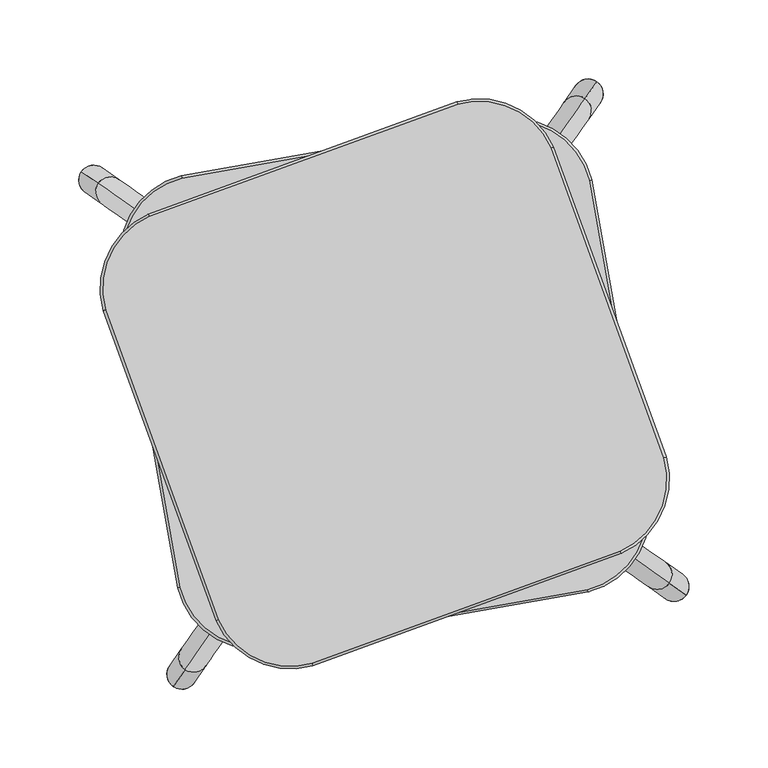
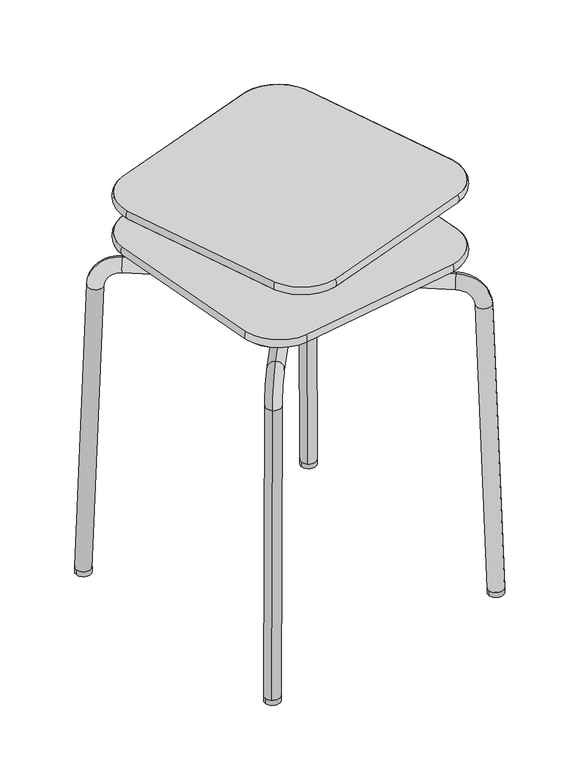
"""IFC4 building model written with IfcOpenShell, lengths in millimetres: furniture geometry, Grip NxT Stool 45 Stack : 45 Unupholstered."""

from ifc_helpers import new_model, si_unit, point, frame, frame_2d, origin, place, context, project, spatial, polyline, circle_curve, ellipse_curve, trimmed, segment, composite_curve, outline, extrude, source, transform, mapped, element, save
from ifc_brep_helpers import plane_surface, cylinder_surface, revolved_surface, advanced_brep


def furniture_5ac924e7(model_context):
    return source(origin(), model_context, "Body", "SolidModel", [
        advanced_brep(
        [(-105.6658172, -149.8194623, 595.4041136), (-46.1905142, -177.5407438, 595.4041136), (-46.1905142, -177.5407438, 585.4041138), (-105.6658172, -149.8194623, 585.4041138), (-177.2468062, 46.8476885, 595.4041136), (-177.2468062, 46.8476885, 585.4041138), (-149.5049771, 106.31341, 595.4041136), (-149.5049771, 106.31341, 585.4041138), (46.1905142, 177.5407438, 595.4041136), (46.1905142, 177.5407438, 585.4041138), (105.6658172, 149.8194623, 595.4041136), (105.6658172, 149.8194623, 585.4041138), (177.2468062, -46.8476885, 595.4041136), (177.2468062, -46.8476885, 585.4041138), (149.5049771, -106.31341, 595.4041136), (149.5049771, -106.31341, 585.4041138)],
        [
            (0, 1, circle_curve(frame((-59.9886761, -129.4823342, 595.4041136), z_axis=(0.0, 0.0, 1.0), x_axis=(0.2759632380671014, -0.961168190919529, 0.0)), 50.0)),
            (1, 2),
            (2, 3, circle_curve(frame((-59.9886761, -129.4823342, 585.4041138), z_axis=(0.0, 0.0, -1.0), x_axis=(0.2759632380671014, -0.961168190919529, 0.0)), 50.0)),
            (3, 0),
            (4, 0, circle_curve(frame((1264.6484164, 460.2943804, 595.4041136), z_axis=(0.0, 0.0, 1.0), x_axis=(-0.9135428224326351, -0.40674256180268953, 0.0)), 1500.0)),
            (3, 5, circle_curve(frame((1264.6484164, 460.2943804, 585.4041138), z_axis=(0.0, 0.0, -1.0), x_axis=(-0.9135428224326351, -0.40674256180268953, 0.0)), 1500.0)),
            (5, 4),
            (6, 4, circle_curve(frame((-129.1836321, 60.6292449, 595.4041136), z_axis=(0.0, 0.0, 1.0), x_axis=(-0.9612634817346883, -0.2756311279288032, 0.0)), 50.0)),
            (5, 7, circle_curve(frame((-129.1836321, 60.6292449, 585.4041138), z_axis=(0.0, 0.0, -1.0), x_axis=(-0.9612634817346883, -0.2756311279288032, 0.0)), 50.0)),
            (7, 6),
            (8, 6, circle_curve(frame((460.1353713, -1264.2115426, 595.4041136), z_axis=(0.0, 0.0, 1.0), x_axis=(-0.4064268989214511, 0.913683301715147, 0.0)), 1500.0)),
            (7, 9, circle_curve(frame((460.1353713, -1264.2115426, 585.4041138), z_axis=(0.0, 0.0, -1.0), x_axis=(-0.4064268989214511, 0.913683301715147, 0.0)), 1500.0)),
            (9, 8),
            (10, 8, circle_curve(frame((59.9886761, 129.4823342, 595.4041136), z_axis=(0.0, 0.0, 1.0), x_axis=(-0.2759632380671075, 0.9611681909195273, 0.0)), 50.0)),
            (9, 11, circle_curve(frame((59.9886761, 129.4823342, 585.4041138), z_axis=(0.0, 0.0, -1.0), x_axis=(-0.2759632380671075, 0.9611681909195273, 0.0)), 50.0)),
            (11, 10),
            (12, 10, circle_curve(frame((-1264.6484164, -460.2943804, 595.4041136), z_axis=(0.0, 0.0, 1.0), x_axis=(0.9135428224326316, 0.4067425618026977, 0.0)), 1500.0)),
            (11, 13, circle_curve(frame((-1264.6484164, -460.2943804, 585.4041138), z_axis=(0.0, 0.0, -1.0), x_axis=(0.9135428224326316, 0.4067425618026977, 0.0)), 1500.0)),
            (13, 12),
            (14, 12, circle_curve(frame((129.1836321, -60.6292449, 595.4041136), z_axis=(0.0, 0.0, 1.0), x_axis=(0.9612634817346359, 0.27563112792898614, 0.0)), 50.0)),
            (13, 15, circle_curve(frame((129.1836321, -60.6292449, 585.4041138), z_axis=(0.0, 0.0, -1.0), x_axis=(0.9612634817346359, 0.27563112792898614, 0.0)), 50.0)),
            (15, 14),
            (1, 14, circle_curve(frame((-460.1353713, 1264.2115426, 595.4041136), z_axis=(0.0, 0.0, 1.0), x_axis=(0.4064268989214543, -0.9136833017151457, 0.0)), 1500.0)),
            (15, 2, circle_curve(frame((-460.1353713, 1264.2115426, 585.4041138), z_axis=(0.0, 0.0, -1.0), x_axis=(0.4064268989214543, -0.9136833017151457, 0.0)), 1500.0)),
            (2, 1, circle_curve(frame((-48.255634, -170.3480196, 590.4041137), z_axis=(-0.961168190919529, -0.27596323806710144, 0.0), x_axis=(0.27596323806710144, -0.961168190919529, 0.0)), 9.0)),
            (0, 3, circle_curve(frame((-98.8294887, -146.7756797, 590.4041137), z_axis=(0.40674256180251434, -0.9135428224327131, 0.0), x_axis=(-0.9135428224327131, -0.40674256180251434, 0.0)), 9.0)),
            (4, 5, circle_curve(frame((-170.0533689, 48.910323, 590.4041137), z_axis=(0.27563112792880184, -0.9612634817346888, 0.0), x_axis=(-0.9612634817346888, -0.27563112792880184, 0.0)), 9.0)),
            (6, 7, circle_curve(frame((-146.4635566, 99.4760302, 590.4041137), z_axis=(-0.9136833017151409, -0.406426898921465, 0.0), x_axis=(-0.406426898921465, 0.9136833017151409, 0.0)), 9.0)),
            (8, 9, circle_curve(frame((48.255634, 170.3480196, 590.4041137), z_axis=(-0.9611681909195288, -0.2759632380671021, 0.0), x_axis=(-0.2759632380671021, 0.9611681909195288, 0.0)), 9.0)),
            (10, 11, circle_curve(frame((98.8294887, 146.7756797, 590.4041137), z_axis=(-0.40674256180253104, 0.9135428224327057, 0.0), x_axis=(0.9135428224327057, 0.40674256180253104, 0.0)), 9.0)),
            (12, 13, circle_curve(frame((170.0533689, -48.910323, 590.4041137), z_axis=(-0.27563112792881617, 0.9612634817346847, 0.0), x_axis=(0.9612634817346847, 0.27563112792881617, 0.0)), 9.0)),
            (14, 15, circle_curve(frame((146.4635566, -99.4760302, 590.4041137), z_axis=(0.9136833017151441, 0.4064268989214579, 0.0), x_axis=(0.4064268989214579, -0.9136833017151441, 0.0)), 9.0)),
        ],
        [
            revolved_surface(polyline([(-46.190514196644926, -177.54074374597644, 585.4041138), (-46.190514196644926, -177.54074374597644, 595.4041136)]), (-59.9886761, -129.4823342, 595.4041136), (0.0, 0.0, -1.0)),
            revolved_surface(polyline([(-105.66581724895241, -149.81946230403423, 585.4041138), (-105.66581724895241, -149.81946230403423, 595.4041136)]), (1264.6484164, 460.2943804, 595.4041136), (0.0, 0.0, -1.0)),
            revolved_surface(polyline([(-177.24680618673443, 46.847688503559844, 585.4041138), (-177.24680618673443, 46.847688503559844, 595.4041136)]), (-129.1836321, 60.6292449, 595.4041136), (0.0, 0.0, -1.0)),
            revolved_surface(polyline([(-149.50497708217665, 106.31340997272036, 585.4041138), (-149.50497708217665, 106.31340997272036, 595.4041136)]), (460.1353713, -1264.2115426, 595.4041136), (0.0, 0.0, -1.0)),
            revolved_surface(polyline([(46.19051419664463, 177.54074374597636, 585.4041138), (46.19051419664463, 177.54074374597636, 595.4041136)]), (59.9886761, 129.4823342, 595.4041136), (0.0, 0.0, -1.0)),
            revolved_surface(polyline([(105.6658172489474, 149.8194623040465, 585.4041138), (105.6658172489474, 149.8194623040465, 595.4041136)]), (-1264.6484164, -460.2943804, 595.4041136), (0.0, 0.0, -1.0)),
            revolved_surface(polyline([(177.24680618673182, -46.8476885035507, 585.4041138), (177.24680618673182, -46.8476885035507, 595.4041136)]), (129.1836321, -60.6292449, 595.4041136), (0.0, 0.0, -1.0)),
            revolved_surface(polyline([(149.50497708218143, -106.31340997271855, 585.4041138), (149.50497708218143, -106.31340997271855, 595.4041136)]), (-460.1353713, 1264.2115426, 595.4041136), (0.0, 0.0, -1.0)),
            revolved_surface(trimmed(ellipse_curve(frame((-48.255634, -170.3480196, 590.4041137), z_axis=(0.961168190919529, 0.27596323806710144, 0.0), x_axis=(0.27596323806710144, -0.961168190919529, 0.0)), 9.0, 9.0), [point((-46.1905142, -177.5407438, 595.4041136))], [point((-46.1905142, -177.5407438, 585.4041138))], True, "CARTESIAN"), (-59.9886761, -129.4823342, 595.4041136), (0.0, 0.0, -1.0)),
            revolved_surface(trimmed(ellipse_curve(frame((-98.8294887, -146.7756797, 590.4041137), z_axis=(0.4067425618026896, -0.9135428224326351, 0.0), x_axis=(-0.9135428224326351, -0.4067425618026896, 0.0)), 9.0, 9.0), [point((-105.6658172, -149.8194623, 595.4041136))], [point((-105.6658172, -149.8194623, 585.4041138))], True, "CARTESIAN"), (1264.6484164, 460.2943804, 595.4041136), (0.0, 0.0, -1.0)),
            revolved_surface(trimmed(ellipse_curve(frame((-170.0533689, 48.910323, 590.4041137), z_axis=(0.27563112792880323, -0.9612634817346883, 0.0), x_axis=(-0.9612634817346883, -0.27563112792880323, 0.0)), 9.0, 9.0), [point((-177.2468062, 46.8476885, 595.4041136))], [point((-177.2468062, 46.8476885, 585.4041138))], True, "CARTESIAN"), (-129.1836321, 60.6292449, 595.4041136), (0.0, 0.0, -1.0)),
            revolved_surface(trimmed(ellipse_curve(frame((-146.4635566, 99.4760302, 590.4041137), z_axis=(-0.913683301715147, -0.4064268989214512, 0.0), x_axis=(-0.4064268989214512, 0.913683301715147, 0.0)), 9.0, 9.0), [point((-149.5049771, 106.31341, 595.4041136))], [point((-149.5049771, 106.31341, 585.4041138))], True, "CARTESIAN"), (460.1353713, -1264.2115426, 595.4041136), (0.0, 0.0, -1.0)),
            revolved_surface(trimmed(ellipse_curve(frame((48.255634, 170.3480196, 590.4041137), z_axis=(-0.9611681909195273, -0.2759632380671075, 0.0), x_axis=(-0.2759632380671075, 0.9611681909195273, 0.0)), 9.0, 9.0), [point((46.1905142, 177.5407438, 595.4041136))], [point((46.1905142, 177.5407438, 585.4041138))], True, "CARTESIAN"), (59.9886761, 129.4823342, 595.4041136), (0.0, 0.0, -1.0)),
            revolved_surface(trimmed(ellipse_curve(frame((98.8294887, 146.7756797, 590.4041137), z_axis=(-0.4067425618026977, 0.9135428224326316, 0.0), x_axis=(0.9135428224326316, 0.4067425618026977, 0.0)), 9.0, 9.0), [point((105.6658172, 149.8194623, 595.4041136))], [point((105.6658172, 149.8194623, 585.4041138))], True, "CARTESIAN"), (-1264.6484164, -460.2943804, 595.4041136), (0.0, 0.0, -1.0)),
            revolved_surface(trimmed(ellipse_curve(frame((170.0533689, -48.910323, 590.4041137), z_axis=(-0.27563112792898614, 0.9612634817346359, 0.0), x_axis=(0.9612634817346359, 0.27563112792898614, 0.0)), 9.0, 9.0), [point((177.2468062, -46.8476885, 595.4041136))], [point((177.2468062, -46.8476885, 585.4041138))], True, "CARTESIAN"), (129.1836321, -60.6292449, 595.4041136), (0.0, 0.0, -1.0)),
            revolved_surface(trimmed(ellipse_curve(frame((146.4635566, -99.4760302, 590.4041137), z_axis=(0.9136833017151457, 0.4064268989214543, 0.0), x_axis=(0.4064268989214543, -0.9136833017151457, 0.0)), 9.0, 9.0), [point((149.5049771, -106.31341, 595.4041136))], [point((149.5049771, -106.31341, 585.4041138))], True, "CARTESIAN"), (-460.1353713, 1264.2115426, 595.4041136), (0.0, 0.0, -1.0)),
        ],
        [
            (0, [[1, 2, 3, 4]]),
            (1, [[5, -4, 6, 7]]),
            (2, [[8, -7, 9, 10]]),
            (3, [[11, -10, 12, 13]]),
            (4, [[14, -13, 15, 16]]),
            (5, [[17, -16, 18, 19]]),
            (6, [[20, -19, 21, 22]]),
            (7, [[23, -22, 24, -2]]),
            (8, [[-3, 25, -1, 26]]),
            (9, [[-6, -26, -5, 27]]),
            (10, [[-9, -27, -8, 28]]),
            (11, [[-12, -28, -11, 29]]),
            (12, [[-15, -29, -14, 30]]),
            (13, [[-18, -30, -17, 31]]),
            (14, [[-21, -31, -20, 32]]),
            (15, [[-24, -32, -23, -25]]),
        ],
    ),
        extrude(outline(composite_curve([segment(trimmed(circle_curve(frame_2d((59.9886761, 129.4823342)), 50.0), [point((46.1905142, 177.5407438))], [point((105.6658172, 149.8194623))], False, "CARTESIAN"), True, "CONTINUOUS"), segment(trimmed(circle_curve(frame_2d((-1264.6484164, -460.2943804)), 1500.0), [point((105.6658172, 149.8194623))], [point((177.2468062, -46.8476885))], False, "CARTESIAN"), True, "CONTINUOUS"), segment(trimmed(circle_curve(frame_2d((129.1836321, -60.6292449)), 50.0), [point((177.2468062, -46.8476885))], [point((149.5049771, -106.31341))], False, "CARTESIAN"), True, "CONTINUOUS"), segment(trimmed(circle_curve(frame_2d((-460.1353713, 1264.2115426)), 1500.0), [point((149.5049771, -106.31341))], [point((-46.1905142, -177.5407438))], False, "CARTESIAN"), True, "CONTINUOUS"), segment(trimmed(circle_curve(frame_2d((-59.9886761, -129.4823342)), 50.0), [point((-46.1905142, -177.5407438))], [point((-105.6658172, -149.8194623))], False, "CARTESIAN"), True, "CONTINUOUS"), segment(trimmed(circle_curve(frame_2d((1264.6484164, 460.2943804)), 1500.0), [point((-105.6658172, -149.8194623))], [point((-177.2468062, 46.8476885))], False, "CARTESIAN"), True, "CONTINUOUS"), segment(trimmed(circle_curve(frame_2d((-129.1836321, 60.6292449)), 50.0), [point((-177.2468062, 46.8476885))], [point((-149.5049771, 106.31341))], False, "CARTESIAN"), True, "CONTINUOUS"), segment(trimmed(circle_curve(frame_2d((460.1353713, -1264.2115426)), 1500.0), [point((-149.5049771, 106.31341))], [point((46.1905142, 177.5407438))], False, "CARTESIAN"), True, "CONTINUOUS")], self_intersect=False)), frame((0.0, 0.0, 585.3753358), z_axis=(0.0, 0.0, 1.0), x_axis=(1.0, 0.0, 0.0)), (0.0, 0.0, 1.0), 9.9999998),
        advanced_brep(
        [(191.4405493, -134.0481158, 76.7653221), (175.8861416, -123.1568022, 76.1022316), (180.7163661, -126.5389618, 451.66572), (165.1619584, -115.6476483, 451.0026295), (148.3795711, -103.8964942, 489.7871899), (148.3795711, -103.8964942, 470.7871899), (0.1522537, -0.1066092, 489.7871899), (0.1522537, -0.1066092, 470.7871899), (-149.5611874, 104.7238708, 489.7871899), (-149.5611874, 104.7238708, 470.7871899), (-181.8979824, 127.3663385, 451.66572), (-166.3435747, 116.4750249, 451.0026295), (-192.6208182, 134.8745489, 76.812426), (-177.0664105, 123.9832354, 76.1493355), (134.6135861, 191.9240746, 76.7653221), (123.7222725, 176.3696668, 76.1022316), (127.1044321, 181.1998914, 451.66572), (116.2131186, 165.6454836, 451.0026295), (104.4619645, 148.8630963, 489.7871899), (104.4619645, 148.8630963, 470.7871899), (-104.1584005, -149.0776621, 489.7871899), (-104.1584005, -149.0776621, 470.7871899), (-126.8008682, -181.4144572, 451.66572), (-115.9095546, -165.8600494, 451.0026295), (-134.3090786, -192.137293, 76.812426), (-123.4177651, -176.5828852, 76.1493355)],
        [
            (0, 1, circle_curve(frame((183.6633455, -128.602459, 76.4337769), z_axis=(0.028587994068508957, -0.020017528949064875, -0.9993908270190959), x_axis=(-0.8186530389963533, 0.5732270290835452, -0.034899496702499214)), 9.5)),
            (1, 0, circle_curve(frame((183.6633455, -128.602459, 76.4337769), z_axis=(0.028587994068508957, -0.020017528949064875, -0.9993908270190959), x_axis=(-0.8186530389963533, 0.5732270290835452, -0.034899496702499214)), 9.5)),
            (0, 2),
            (2, 3, circle_curve(frame((172.9391622, -121.093305, 451.3341748), z_axis=(0.028587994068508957, -0.020017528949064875, -0.9993908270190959), x_axis=(-0.8186530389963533, 0.5732270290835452, -0.034899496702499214)), 9.5)),
            (3, 1),
            (3, 2, circle_curve(frame((172.9391622, -121.093305, 451.3341748), z_axis=(0.028587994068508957, -0.020017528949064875, -0.9993908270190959), x_axis=(-0.8186530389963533, 0.5732270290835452, -0.034899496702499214)), 9.5)),
            (2, 4, circle_curve(frame((148.3795711, -103.8964942, 450.2871899), z_axis=(-0.5735764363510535, -0.8191520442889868, 0.0), x_axis=(0.8186530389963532, -0.573227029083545, 0.03489949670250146)), 39.5)),
            (4, 5, circle_curve(frame((148.3795711, -103.8964942, 480.2871899), z_axis=(0.8191520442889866, -0.5735764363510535, 0.0), x_axis=(0.0, 0.0, -1.0)), 9.5)),
            (5, 3, circle_curve(frame((148.3795711, -103.8964942, 450.2871899), z_axis=(0.5735764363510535, 0.8191520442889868, 0.0), x_axis=(0.8186530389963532, -0.573227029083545, 0.03489949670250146)), 20.5)),
            (5, 4, circle_curve(frame((148.3795711, -103.8964942, 480.2871899), z_axis=(0.8191520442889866, -0.5735764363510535, 0.0), x_axis=(0.0, 0.0, -1.0)), 9.5)),
            (4, 6),
            (6, 7, ellipse_curve(frame((0.1522537, -0.1066092, 480.2871899), z_axis=(0.9848077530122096, 0.173648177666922, 0.0), x_axis=(0.17364817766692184, -0.9848077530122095, 0.0)), 13.4350288, 9.5)),
            (7, 5),
            (8, 9, circle_curve(frame((-149.5611874, 104.7238708, 480.2871899), z_axis=(0.8191520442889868, -0.5735764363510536, 0.0), x_axis=(0.0, 0.0, -1.0)), 9.5)),
            (9, 7),
            (7, 6, ellipse_curve(frame((0.1522537, -0.1066092, 480.2871899), z_axis=(-0.17364817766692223, 0.9848077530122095, 0.0), x_axis=(0.9848077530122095, 0.17364817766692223, 0.0)), 13.4350288, 9.5)),
            (6, 8),
            (7, 6, ellipse_curve(frame((0.1522537, -0.1066092, 480.2871899), z_axis=(0.17364817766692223, -0.9848077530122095, 0.0), x_axis=(0.9848077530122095, 0.17364817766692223, 0.0)), 13.4350288, 9.5)),
            (9, 8, circle_curve(frame((-149.5611874, 104.7238708, 480.2871899), z_axis=(0.8191520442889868, -0.5735764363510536, 0.0), x_axis=(0.0, 0.0, -1.0)), 9.5)),
            (6, 7, ellipse_curve(frame((0.1522537, -0.1066092, 480.2871899), z_axis=(-0.9848077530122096, -0.173648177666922, 0.0), x_axis=(0.17364817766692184, -0.9848077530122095, 0.0)), 13.4350288, 9.5)),
            (8, 10, circle_curve(frame((-149.5611874, 104.7238708, 450.2871899), z_axis=(-0.5735764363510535, -0.8191520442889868, 0.0), x_axis=(0.0, 0.0, 1.0)), 39.5)),
            (10, 11, circle_curve(frame((-174.1207785, 121.9206817, 451.3341748), z_axis=(0.028587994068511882, -0.020017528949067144, 0.9993908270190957), x_axis=(0.8186530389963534, -0.5732270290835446, -0.03489949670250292)), 9.5)),
            (11, 9, circle_curve(frame((-149.5611874, 104.7238708, 450.2871899), z_axis=(0.5735764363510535, 0.8191520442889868, 0.0), x_axis=(0.0, 0.0, 1.0)), 20.5)),
            (11, 10, circle_curve(frame((-174.1207785, 121.9206817, 451.3341748), z_axis=(0.02858799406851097, -0.020017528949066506, 0.9993908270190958), x_axis=(0.8186530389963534, -0.5732270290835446, -0.03489949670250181)), 9.5)),
            (12, 13, circle_curve(frame((-184.8436144, 129.4288922, 76.4808807), z_axis=(-0.02858799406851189, 0.020017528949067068, -0.9993908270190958), x_axis=(0.8186530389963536, -0.5732270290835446, -0.03489949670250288)), 9.5)),
            (13, 12, circle_curve(frame((-184.8436144, 129.4288922, 76.4808807), z_axis=(-0.02858799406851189, 0.020017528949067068, -0.9993908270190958), x_axis=(0.8186530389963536, -0.5732270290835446, -0.03489949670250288)), 9.5)),
            (10, 12),
            (13, 11),
            (14, 15, circle_curve(frame((129.1679293, 184.1468707, 76.4337769), z_axis=(0.020017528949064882, 0.02858799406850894, -0.9993908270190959), x_axis=(-0.5732270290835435, -0.8186530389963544, -0.03489949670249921)), 9.5)),
            (15, 14, circle_curve(frame((129.1679293, 184.1468707, 76.4337769), z_axis=(0.020017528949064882, 0.02858799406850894, -0.9993908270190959), x_axis=(-0.5732270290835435, -0.8186530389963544, -0.03489949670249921)), 9.5)),
            (14, 16),
            (16, 17, circle_curve(frame((121.6587753, 173.4226875, 451.3341748), z_axis=(0.020017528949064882, 0.02858799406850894, -0.9993908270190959), x_axis=(-0.5732270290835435, -0.8186530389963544, -0.03489949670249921)), 9.5)),
            (17, 15),
            (17, 16, circle_curve(frame((121.6587753, 173.4226875, 451.3341748), z_axis=(0.020017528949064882, 0.02858799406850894, -0.9993908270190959), x_axis=(-0.5732270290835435, -0.8186530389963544, -0.03489949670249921)), 9.5)),
            (16, 18, circle_curve(frame((104.4619645, 148.8630963, 450.2871899), z_axis=(0.8191520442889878, -0.5735764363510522, 0.0), x_axis=(0.5732270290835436, 0.8186530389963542, 0.03489949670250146)), 39.5)),
            (18, 19, circle_curve(frame((104.4619645, 148.8630963, 480.2871899), z_axis=(0.5735764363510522, 0.8191520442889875, 0.0), x_axis=(0.0, 0.0, -1.0)), 9.5)),
            (19, 17, circle_curve(frame((104.4619645, 148.8630963, 450.2871899), z_axis=(-0.8191520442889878, 0.5735764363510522, 0.0), x_axis=(0.5732270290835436, 0.8186530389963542, 0.03489949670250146)), 20.5)),
            (19, 18, circle_curve(frame((104.4619645, 148.8630963, 480.2871899), z_axis=(0.5735764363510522, 0.8191520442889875, 0.0), x_axis=(0.0, 0.0, -1.0)), 9.5)),
            (18, 6),
            (7, 19),
            (20, 21, circle_curve(frame((-104.1584005, -149.0776621, 480.2871899), z_axis=(0.5735764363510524, 0.8191520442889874, 0.0), x_axis=(0.0, 0.0, -1.0)), 9.5)),
            (21, 7),
            (6, 20),
            (21, 20, circle_curve(frame((-104.1584005, -149.0776621, 480.2871899), z_axis=(0.5735764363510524, 0.8191520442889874, 0.0), x_axis=(0.0, 0.0, -1.0)), 9.5)),
            (20, 22, circle_curve(frame((-104.1584005, -149.0776621, 450.2871899), z_axis=(0.8191520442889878, -0.5735764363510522, 0.0), x_axis=(0.0, 0.0, 1.0)), 39.5)),
            (22, 23, circle_curve(frame((-121.3552114, -173.6372533, 451.3341748), z_axis=(0.020017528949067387, 0.028587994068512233, 0.9993908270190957), x_axis=(0.5732270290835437, 0.8186530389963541, -0.03489949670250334)), 9.5)),
            (23, 21, circle_curve(frame((-104.1584005, -149.0776621, 450.2871899), z_axis=(-0.8191520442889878, 0.5735764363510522, 0.0), x_axis=(0.0, 0.0, 1.0)), 20.5)),
            (23, 22, circle_curve(frame((-121.3552114, -173.6372533, 451.3341748), z_axis=(0.02001752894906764, 0.028587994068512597, 0.9993908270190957), x_axis=(0.5732270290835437, 0.8186530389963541, -0.034899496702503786)), 9.5)),
            (24, 25, circle_curve(frame((-128.8634219, -184.3600891, 76.4808807), z_axis=(-0.02001752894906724, -0.028587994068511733, -0.9993908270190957), x_axis=(0.5732270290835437, 0.8186530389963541, -0.03489949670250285)), 9.5)),
            (25, 24, circle_curve(frame((-128.8634219, -184.3600891, 76.4808807), z_axis=(-0.02001752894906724, -0.028587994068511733, -0.9993908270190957), x_axis=(0.5732270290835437, 0.8186530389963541, -0.03489949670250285)), 9.5)),
            (22, 24),
            (25, 23),
        ],
        [
            plane_surface(frame((183.6633455, -128.602459, 76.4337769), z_axis=(0.028587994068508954, -0.020017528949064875, -0.9993908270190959), x_axis=(-0.5735764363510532, -0.8191520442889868, 0.0))),
            cylinder_surface(frame((183.6633455, -128.602459, 76.4337769), z_axis=(0.028587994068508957, -0.020017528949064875, -0.9993908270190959), x_axis=(-0.8186530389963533, 0.5732270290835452, -0.034899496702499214)), 9.5),
            revolved_surface(trimmed(ellipse_curve(frame((172.9391622, -121.093305, 451.3341748), z_axis=(0.02858799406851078, -0.020017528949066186, -0.9993908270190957), x_axis=(-0.8186530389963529, 0.5732270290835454, -0.03489949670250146)), 9.5, 9.5), [point((180.7163661, -126.5389618, 451.66572))], [point((165.1619584, -115.6476483, 451.0026295))], True, "CARTESIAN"), (148.3795711, -103.8964942, 450.2871899), (-0.5735764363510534, -0.8191520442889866, 0.0)),
            revolved_surface(trimmed(ellipse_curve(frame((172.9391622, -121.093305, 451.3341748), z_axis=(0.02858799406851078, -0.020017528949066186, -0.9993908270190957), x_axis=(-0.8186530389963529, 0.5732270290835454, -0.03489949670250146)), 9.5, 9.5), [point((165.1619584, -115.6476483, 451.0026295))], [point((180.7163661, -126.5389618, 451.66572))], True, "CARTESIAN"), (148.3795711, -103.8964942, 450.2871899), (-0.5735764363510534, -0.8191520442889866, 0.0)),
            cylinder_surface(frame((148.3795711, -103.8964942, 480.2871899), z_axis=(0.8191520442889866, -0.5735764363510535, 0.0), x_axis=(0.0, 0.0, -1.0)), 9.5),
            revolved_surface(trimmed(ellipse_curve(frame((-149.5611874, 104.7238708, 480.2871899), z_axis=(0.8191520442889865, -0.5735764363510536, 0.0), x_axis=(0.0, 0.0, -1.0)), 9.5, 9.5), [point((-149.5611874, 104.7238708, 489.7871899))], [point((-149.5611874, 104.7238708, 470.7871899))], True, "CARTESIAN"), (-149.5611874, 104.7238708, 450.2871899), (-0.5735764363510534, -0.8191520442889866, 0.0)),
            revolved_surface(trimmed(ellipse_curve(frame((-149.5611874, 104.7238708, 480.2871899), z_axis=(0.8191520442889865, -0.5735764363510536, 0.0), x_axis=(0.0, 0.0, -1.0)), 9.5, 9.5), [point((-149.5611874, 104.7238708, 470.7871899))], [point((-149.5611874, 104.7238708, 489.7871899))], True, "CARTESIAN"), (-149.5611874, 104.7238708, 450.2871899), (-0.5735764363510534, -0.8191520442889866, 0.0)),
            plane_surface(frame((-184.8436144, 129.4288922, 76.4808807), z_axis=(-0.028587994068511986, 0.020017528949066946, -0.9993908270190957), x_axis=(-0.5735764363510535, -0.8191520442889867, 0.0))),
            cylinder_surface(frame((-174.1207785, 121.9206817, 451.3341748), z_axis=(0.02858799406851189, -0.020017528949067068, 0.9993908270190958), x_axis=(0.8186530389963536, -0.5732270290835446, -0.03489949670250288)), 9.5),
            plane_surface(frame((129.1679293, 184.1468707, 76.4337769), z_axis=(0.020017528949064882, 0.028587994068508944, -0.9993908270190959), x_axis=(0.8191520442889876, -0.5735764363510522, 0.0))),
            cylinder_surface(frame((129.1679293, 184.1468707, 76.4337769), z_axis=(0.020017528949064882, 0.02858799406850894, -0.9993908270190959), x_axis=(-0.5732270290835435, -0.8186530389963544, -0.03489949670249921)), 9.5),
            revolved_surface(trimmed(ellipse_curve(frame((121.6587753, 173.4226875, 451.3341748), z_axis=(0.02001752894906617, 0.028587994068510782, -0.9993908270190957), x_axis=(-0.5732270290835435, -0.8186530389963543, -0.034899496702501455)), 9.5, 9.5), [point((127.1044321, 181.1998914, 451.66572))], [point((116.2131186, 165.6454836, 451.0026295))], True, "CARTESIAN"), (104.4619645, 148.8630963, 450.2871899), (0.8191520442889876, -0.573576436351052, 0.0)),
            revolved_surface(trimmed(ellipse_curve(frame((121.6587753, 173.4226875, 451.3341748), z_axis=(0.02001752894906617, 0.028587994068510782, -0.9993908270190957), x_axis=(-0.5732270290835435, -0.8186530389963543, -0.034899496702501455)), 9.5, 9.5), [point((116.2131186, 165.6454836, 451.0026295))], [point((127.1044321, 181.1998914, 451.66572))], True, "CARTESIAN"), (104.4619645, 148.8630963, 450.2871899), (0.8191520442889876, -0.573576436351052, 0.0)),
            cylinder_surface(frame((104.4619645, 148.8630963, 480.2871899), z_axis=(0.5735764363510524, 0.8191520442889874, 0.0), x_axis=(0.0, 0.0, -1.0)), 9.5),
            revolved_surface(trimmed(ellipse_curve(frame((-104.1584005, -149.0776621, 480.2871899), z_axis=(0.5735764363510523, 0.8191520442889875, 0.0), x_axis=(0.0, 0.0, -1.0)), 9.5, 9.5), [point((-104.1584005, -149.0776621, 489.7871899))], [point((-104.1584005, -149.0776621, 470.7871899))], True, "CARTESIAN"), (-104.1584005, -149.0776621, 450.2871899), (0.8191520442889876, -0.573576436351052, 0.0)),
            revolved_surface(trimmed(ellipse_curve(frame((-104.1584005, -149.0776621, 480.2871899), z_axis=(0.5735764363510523, 0.8191520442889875, 0.0), x_axis=(0.0, 0.0, -1.0)), 9.5, 9.5), [point((-104.1584005, -149.0776621, 470.7871899))], [point((-104.1584005, -149.0776621, 489.7871899))], True, "CARTESIAN"), (-104.1584005, -149.0776621, 450.2871899), (0.8191520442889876, -0.573576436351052, 0.0)),
            plane_surface(frame((-128.8634219, -184.3600891, 76.4808807), z_axis=(-0.02001752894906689, -0.028587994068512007, -0.9993908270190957), x_axis=(0.8191520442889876, -0.5735764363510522, 0.0))),
            cylinder_surface(frame((-121.3552114, -173.6372533, 451.3341748), z_axis=(0.020017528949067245, 0.02858799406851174, 0.9993908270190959), x_axis=(0.5732270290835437, 0.8186530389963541, -0.03489949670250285)), 9.5),
        ],
        [
            (0, [[1, 2]]),
            (1, [[-1, 3, 4, 5]]),
            (1, [[-2, -5, 6, -3]]),
            (2, [[-4, 7, 8, 9]]),
            (3, [[-6, -9, 10, -7]]),
            (4, [[-8, 11, 12, 13]]),
            (4, [[14, 15, 16, 17]]),
            (4, [[-10, -13, 18, -11]]),
            (4, [[19, -17, 20, -15]]),
            (5, [[-14, 21, 22, 23]]),
            (6, [[-19, -23, 24, -21]]),
            (7, [[25, 26]]),
            (8, [[-22, 27, -26, 28]]),
            (8, [[-24, -28, -25, -27]]),
            (9, [[29, 30]]),
            (10, [[-29, 31, 32, 33]]),
            (10, [[-30, -33, 34, -31]]),
            (11, [[-32, 35, 36, 37]]),
            (12, [[-34, -37, 38, -35]]),
            (13, [[-36, 39, -18, 40]]),
            (13, [[41, 42, -12, 43]]),
            (13, [[-38, -40, -20, -39]]),
            (13, [[44, -43, -16, -42]]),
            (14, [[-41, 45, 46, 47]]),
            (15, [[-44, -47, 48, -45]]),
            (16, [[49, 50]]),
            (17, [[-46, 51, -50, 52]]),
            (17, [[-48, -52, -49, -51]]),
        ],
    ),
        extrude(outline(composite_curve([segment(trimmed(circle_curve(frame_2d((-50.9487488, -72.9539738)), 9.0), [point((-59.8120186, -74.5168074))], [point((-42.0854791, -71.3911402))], False, "CARTESIAN"), True, "CONTINUOUS"), segment(trimmed(circle_curve(frame_2d((-50.9487488, -72.9539738)), 9.0), [point((-42.0854791, -71.3911402))], [point((-59.8120186, -74.5168074))], False, "CARTESIAN"), True, "CONTINUOUS")], self_intersect=False)), frame((0.0, 0.0, 458.5318909), z_axis=(0.0, 0.0, 1.0), x_axis=(1.0, 0.0, 0.0)), (0.0, 0.0, 1.0), 56.7956238),
        extrude(outline(composite_curve([segment(trimmed(circle_curve(frame_2d((-72.8650811, 51.0037852)), 9.0), [point((-81.7283509, 49.4409516))], [point((-64.0018113, 52.5666188))], False, "CARTESIAN"), True, "CONTINUOUS"), segment(trimmed(circle_curve(frame_2d((-72.8650811, 51.0037852)), 9.0), [point((-64.0018113, 52.5666188))], [point((-81.7283509, 49.4409516))], False, "CARTESIAN"), True, "CONTINUOUS")], self_intersect=False)), frame((0.0, 0.0, 458.5318909), z_axis=(0.0, 0.0, 1.0), x_axis=(1.0, 0.0, 0.0)), (0.0, 0.0, 1.0), 56.7956238),
        extrude(outline(composite_curve([segment(trimmed(circle_curve(frame_2d((51.1831974, 72.6378859)), 9.0), [point((60.0464672, 74.2007195))], [point((42.3199276, 71.0750523))], False, "CARTESIAN"), True, "CONTINUOUS"), segment(trimmed(circle_curve(frame_2d((51.1831974, 72.6378859)), 9.0), [point((42.3199276, 71.0750523))], [point((60.0464672, 74.2007195))], False, "CARTESIAN"), True, "CONTINUOUS")], self_intersect=False)), frame((0.0, 0.0, 458.5318909), z_axis=(0.0, 0.0, 1.0), x_axis=(1.0, 0.0, 0.0)), (0.0, 0.0, 1.0), 56.7956238),
        extrude(outline(composite_curve([segment(trimmed(circle_curve(frame_2d((72.8278919, -51.1288125)), 9.0), [point((81.6911617, -49.5659789))], [point((63.9646221, -52.6916461))], False, "CARTESIAN"), True, "CONTINUOUS"), segment(trimmed(circle_curve(frame_2d((72.8278919, -51.1288125)), 9.0), [point((63.9646221, -52.6916461))], [point((81.6911617, -49.5659789))], False, "CARTESIAN"), True, "CONTINUOUS")], self_intersect=False)), frame((0.0, 0.0, 458.5318909), z_axis=(0.0, 0.0, 1.0), x_axis=(1.0, 0.0, 0.0)), (0.0, 0.0, 1.0), 56.7956238),
        extrude(outline(composite_curve([segment(trimmed(circle_curve(frame_2d((-128.8522241, -184.352977)), 9.5), [point((-138.2078978, -186.0026347))], [point((-119.4965505, -182.7033193))], False, "CARTESIAN"), True, "CONTINUOUS"), segment(trimmed(circle_curve(frame_2d((-128.8522241, -184.352977)), 9.5), [point((-119.4965505, -182.7033193))], [point((-138.2078978, -186.0026347))], False, "CARTESIAN"), True, "CONTINUOUS")], self_intersect=False)), frame((0.0, 0.0, 70.0), z_axis=(0.0, 0.0, 1.0), x_axis=(1.0, 0.0, 0.0)), (0.0, 0.0, 1.0), 7.0),
        extrude(outline(composite_curve([segment(trimmed(circle_curve(frame_2d((-184.765808, 129.382232)), 9.5), [point((-194.1214816, 127.7325743))], [point((-175.4101343, 131.0318897))], False, "CARTESIAN"), True, "CONTINUOUS"), segment(trimmed(circle_curve(frame_2d((-184.765808, 129.382232)), 9.5), [point((-175.4101343, 131.0318897))], [point((-194.1214816, 127.7325743))], False, "CARTESIAN"), True, "CONTINUOUS")], self_intersect=False)), frame((0.0, 0.0, 70.0), z_axis=(0.0, 0.0, 1.0), x_axis=(1.0, 0.0, 0.0)), (0.0, 0.0, 1.0), 7.0),
        extrude(outline(composite_curve([segment(trimmed(circle_curve(frame_2d((129.162709, 184.1985347)), 9.5325021), [point((119.775027, 182.543233))], [point((138.5503911, 185.8538363))], False, "CARTESIAN"), True, "CONTINUOUS"), segment(trimmed(circle_curve(frame_2d((129.162709, 184.1985347)), 9.5325021), [point((138.5503911, 185.8538363))], [point((119.775027, 182.543233))], False, "CARTESIAN"), True, "CONTINUOUS")], self_intersect=False)), frame((0.0, 0.0, 70.0), z_axis=(0.0, 0.0, 1.0), x_axis=(1.0, 0.0, 0.0)), (0.0, 0.0, 1.0), 7.0),
        extrude(outline(composite_curve([segment(trimmed(circle_curve(frame_2d((183.6720706, -128.6192857)), 9.5), [point((174.3163969, -130.2689434))], [point((193.0277442, -126.969628))], False, "CARTESIAN"), True, "CONTINUOUS"), segment(trimmed(circle_curve(frame_2d((183.6720706, -128.6192857)), 9.5), [point((193.0277442, -126.969628))], [point((174.3163969, -130.2689434))], False, "CARTESIAN"), True, "CONTINUOUS")], self_intersect=False)), frame((0.0, 0.0, 70.0), z_axis=(0.0, 0.0, 1.0), x_axis=(1.0, 0.0, 0.0)), (0.0, 0.0, 1.0), 7.0),
        advanced_brep(
        [(52.1940164, 66.015965, 525.3895874), (49.7814286, 79.6984304, 525.3895874), (50.9877225, 72.8571977, 525.3895874), (50.9877225, 72.8571977, 526.5699158)],
        [
            (0, 1, circle_curve(frame((50.9877225, 72.8571977, 525.3895874), z_axis=(0.0, 0.0, -1.0), x_axis=(-0.17364817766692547, 0.9848077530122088, 0.0)), 6.9467697)),
            (1, 2),
            (2, 0),
            (1, 0, circle_curve(frame((50.9877225, 72.8571977, 525.3895874), z_axis=(0.0, 0.0, -1.0), x_axis=(-0.17364817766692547, 0.9848077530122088, 0.0)), 6.9467697)),
            (3, 1, circle_curve(frame((50.9482955, 73.0807993, 506.8735995), z_axis=(-0.9848077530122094, -0.17364817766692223, 0.0), x_axis=(-0.17364817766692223, 0.9848077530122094, 0.0)), 19.6976249)),
            (0, 3, circle_curve(frame((51.0271495, 72.6335961, 506.8735995), z_axis=(-0.9848077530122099, -0.17364817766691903, 0.0), x_axis=(0.17364817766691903, -0.9848077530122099, 0.0)), 19.6976249)),
        ],
        [
            plane_surface(frame((50.9877225, 72.8571977, 525.3895874), z_axis=(0.0, 0.0, -1.0), x_axis=(-0.1736481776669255, 0.9848077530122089, 0.0))),
            revolved_surface(trimmed(ellipse_curve(frame((50.9482955, 73.0807993, 506.8735995), z_axis=(0.9848077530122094, 0.17364817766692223, 0.0), x_axis=(-0.17364817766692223, 0.9848077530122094, 0.0)), 19.6976249, 19.6976249), [point((49.7814286, 79.6984304, 525.3895874))], [point((50.9877225, 72.8571977, 526.5699158))], True, "CARTESIAN"), (50.9877225, 72.8571977, 526.2266692), (0.0, 0.0, 1.0)),
        ],
        [
            (0, [[1, 2, 3]]),
            (0, [[4, -3, -2]]),
            (1, [[5, -1, 6]]),
            (1, [[-6, -4, -5]]),
        ],
    ),
        advanced_brep(
        [(72.8314158, -51.0245429, 525.3895874), (74.0377097, -57.8657756, 525.3895874), (71.6251219, -44.1833102, 525.3895874), (72.8314158, -51.0245429, 526.5699158)],
        [
            (0, 1),
            (1, 2, circle_curve(frame((72.8314158, -51.0245429, 525.3895874), z_axis=(0.0, 0.0, -1.0), x_axis=(0.17364817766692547, -0.9848077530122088, 0.0)), 6.9467697)),
            (2, 0),
            (2, 1, circle_curve(frame((72.8314158, -51.0245429, 525.3895874), z_axis=(0.0, 0.0, -1.0), x_axis=(0.17364817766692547, -0.9848077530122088, 0.0)), 6.9467697)),
            (1, 3, circle_curve(frame((72.8708428, -51.2481445, 506.8735995), z_axis=(-0.9848077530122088, -0.17364817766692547, 0.0), x_axis=(0.17364817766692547, -0.9848077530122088, 0.0)), 19.6976249)),
            (3, 2, circle_curve(frame((72.7919888, -50.8009413, 506.8735995), z_axis=(-0.9848077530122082, -0.17364817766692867, 0.0), x_axis=(-0.17364817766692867, 0.9848077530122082, 0.0)), 19.6976249)),
        ],
        [
            plane_surface(frame((72.8314158, -51.0245429, 525.3895874), z_axis=(0.0, 0.0, -1.0), x_axis=(0.1736481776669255, -0.9848077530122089, 0.0))),
            revolved_surface(trimmed(ellipse_curve(frame((72.8708428, -51.2481445, 506.8735995), z_axis=(0.9848077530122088, 0.17364817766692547, 0.0), x_axis=(0.17364817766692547, -0.9848077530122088, 0.0)), 19.6976249, 19.6976249), [point((72.8314158, -51.0245429, 526.5699158))], [point((74.0377097, -57.8657756, 525.3895874))], True, "CARTESIAN"), (72.8314158, -51.0245429, 526.2266692), (0.0, 0.0, -1.0)),
        ],
        [
            (0, [[1, 2, 3]]),
            (0, [[-3, 4, -1]]),
            (1, [[-2, 5, 6]]),
            (1, [[-4, -6, -5]]),
        ],
    ),
        advanced_brep(
        [(-72.8314158, 51.0245429, 525.3895874), (-74.0377097, 57.8657756, 525.3895874), (-71.6251219, 44.1833102, 525.3895874), (-72.8314158, 51.0245429, 526.5699158)],
        [
            (0, 1),
            (1, 2, circle_curve(frame((-72.8314158, 51.0245429, 525.3895874), z_axis=(0.0, 0.0, -1.0), x_axis=(-0.17364817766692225, 0.9848077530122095, 0.0)), 6.9467697)),
            (2, 0),
            (2, 1, circle_curve(frame((-72.8314158, 51.0245429, 525.3895874), z_axis=(0.0, 0.0, -1.0), x_axis=(-0.17364817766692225, 0.9848077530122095, 0.0)), 6.9467697)),
            (1, 3, circle_curve(frame((-72.8708428, 51.2481445, 506.8735995), z_axis=(0.9848077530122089, 0.1736481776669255, 0.0), x_axis=(-0.1736481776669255, 0.9848077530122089, 0.0)), 19.6976249)),
            (3, 2, circle_curve(frame((-72.7919888, 50.8009413, 506.8735995), z_axis=(0.9848077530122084, 0.1736481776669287, 0.0), x_axis=(0.1736481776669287, -0.9848077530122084, 0.0)), 19.6976249)),
        ],
        [
            plane_surface(frame((-72.8314158, 51.0245429, 525.3895874), z_axis=(0.0, 0.0, -1.0), x_axis=(-0.17364817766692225, 0.9848077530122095, 0.0))),
            revolved_surface(trimmed(ellipse_curve(frame((-72.8708428, 51.2481445, 506.8735995), z_axis=(-0.9848077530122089, -0.1736481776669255, 0.0), x_axis=(-0.1736481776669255, 0.9848077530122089, 0.0)), 19.6976249, 19.6976249), [point((-72.8314158, 51.0245429, 526.5699158))], [point((-74.0377097, 57.8657756, 525.3895874))], True, "CARTESIAN"), (-72.8314158, 51.0245429, 526.2266692), (0.0, 0.0, -1.0)),
        ],
        [
            (0, [[1, 2, 3]]),
            (0, [[-3, 4, -1]]),
            (1, [[-2, 5, 6]]),
            (1, [[-4, -6, -5]]),
        ],
    ),
        advanced_brep(
        [(-52.1940164, -66.015965, 525.3895874), (-49.7814286, -79.6984304, 525.3895874), (-50.9877225, -72.8571977, 525.3895874), (-50.9877225, -72.8571977, 526.5699158)],
        [
            (0, 1, circle_curve(frame((-50.9877225, -72.8571977, 525.3895874), z_axis=(0.0, 0.0, -1.0), x_axis=(0.17364817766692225, -0.9848077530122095, 0.0)), 6.9467697)),
            (1, 2),
            (2, 0),
            (1, 0, circle_curve(frame((-50.9877225, -72.8571977, 525.3895874), z_axis=(0.0, 0.0, -1.0), x_axis=(0.17364817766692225, -0.9848077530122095, 0.0)), 6.9467697)),
            (3, 1, circle_curve(frame((-50.9482955, -73.0807993, 506.8735995), z_axis=(0.9848077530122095, 0.17364817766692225, 0.0), x_axis=(0.17364817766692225, -0.9848077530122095, 0.0)), 19.6976249)),
            (0, 3, circle_curve(frame((-51.0271495, -72.6335961, 506.8735995), z_axis=(0.98480775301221, 0.17364817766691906, 0.0), x_axis=(-0.17364817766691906, 0.98480775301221, 0.0)), 19.6976249)),
        ],
        [
            plane_surface(frame((-50.9877225, -72.8571977, 525.3895874), z_axis=(0.0, 0.0, -1.0), x_axis=(0.17364817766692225, -0.9848077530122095, 0.0))),
            revolved_surface(trimmed(ellipse_curve(frame((-50.9482955, -73.0807993, 506.8735995), z_axis=(-0.9848077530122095, -0.17364817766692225, 0.0), x_axis=(0.17364817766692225, -0.9848077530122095, 0.0)), 19.6976249, 19.6976249), [point((-49.7814286, -79.6984304, 525.3895874))], [point((-50.9877225, -72.8571977, 526.5699158))], True, "CARTESIAN"), (-50.9877225, -72.8571977, 526.2266692), (0.0, 0.0, 1.0)),
        ],
        [
            (0, [[1, 2, 3]]),
            (0, [[4, -3, -2]]),
            (1, [[5, -1, 6]]),
            (1, [[-6, -4, -5]]),
        ],
    ),
        advanced_brep(
        [(-130.0763927, -129.1946914, 525.4041136), (-76.3184031, -166.8226023, 525.4041136), (-76.3184031, -166.8226023, 515.4041138), (-130.0763927, -129.1946914, 515.4041138), (-166.4190132, 76.9145517, 525.4041136), (-166.4190132, 76.9145517, 515.4041138), (-128.7725306, 130.6595372, 525.4041136), (-128.7725306, 130.6595372, 515.4041138), (76.3184031, 166.8226023, 525.4041136), (76.3184031, 166.8226023, 515.4041138), (130.0763927, 129.1946914, 525.4041136), (130.0763927, 129.1946914, 515.4041138), (166.4190132, -76.9145517, 525.4041136), (166.4190132, -76.9145517, 515.4041138), (128.7725306, -130.6595372, 525.4041136), (128.7725306, -130.6595372, 515.4041138)],
        [
            (0, 1, circle_curve(frame((-81.5616847, -117.0982823, 525.4041136), z_axis=(0.0, 0.0, 1.0), x_axis=(0.1048656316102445, -0.9944863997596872, 0.0)), 50.0)),
            (1, 2),
            (2, 3, circle_curve(frame((-81.5616847, -117.0982823, 515.4041138), z_axis=(0.0, 0.0, -1.0), x_axis=(0.1048656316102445, -0.9944863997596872, 0.0)), 50.0)),
            (3, 0),
            (4, 0, circle_curve(frame((1325.3648457, 233.6975816, 525.4041136), z_axis=(0.0, 0.0, 1.0), x_axis=(-0.9702941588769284, -0.24192818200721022, 0.0)), 1500.0)),
            (3, 5, circle_curve(frame((1325.3648457, 233.6975816, 515.4041138), z_axis=(0.0, 0.0, -1.0), x_axis=(-0.9702941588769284, -0.24192818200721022, 0.0)), 1500.0)),
            (5, 4),
            (6, 4, circle_curve(frame((-116.6928846, 82.1406527, 525.4041136), z_axis=(0.0, 0.0, 1.0), x_axis=(-0.9945225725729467, -0.10452201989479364, 0.0)), 50.0)),
            (5, 7, circle_curve(frame((-116.6928846, 82.1406527, 515.4041138), z_axis=(0.0, 0.0, -1.0), x_axis=(-0.9945225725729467, -0.10452201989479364, 0.0)), 50.0)),
            (7, 6),
            (8, 6, circle_curve(frame((233.6168506, -1324.9069973, 525.4041136), z_axis=(0.0, 0.0, 1.0), x_axis=(-0.2415929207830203, 0.9703776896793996, 0.0)), 1500.0)),
            (7, 9, circle_curve(frame((233.6168506, -1324.9069973, 515.4041138), z_axis=(0.0, 0.0, -1.0), x_axis=(-0.2415929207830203, 0.9703776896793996, 0.0)), 1500.0)),
            (9, 8),
            (10, 8, circle_curve(frame((81.5616847, 117.0982823, 525.4041136), z_axis=(0.0, 0.0, 1.0), x_axis=(-0.1048656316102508, 0.9944863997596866, 0.0)), 50.0)),
            (9, 11, circle_curve(frame((81.5616847, 117.0982823, 515.4041138), z_axis=(0.0, 0.0, -1.0), x_axis=(-0.1048656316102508, 0.9944863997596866, 0.0)), 50.0)),
            (11, 10),
            (12, 10, circle_curve(frame((-1325.3648457, -233.6975816, 525.4041136), z_axis=(0.0, 0.0, 1.0), x_axis=(0.9702941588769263, 0.24192818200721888, 0.0)), 1500.0)),
            (11, 13, circle_curve(frame((-1325.3648457, -233.6975816, 515.4041138), z_axis=(0.0, 0.0, -1.0), x_axis=(0.9702941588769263, 0.24192818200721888, 0.0)), 1500.0)),
            (13, 12),
            (14, 12, circle_curve(frame((116.6928846, -82.1406527, 525.4041136), z_axis=(0.0, 0.0, 1.0), x_axis=(0.9945225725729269, 0.10452201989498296, 0.0)), 50.0)),
            (13, 15, circle_curve(frame((116.6928846, -82.1406527, 515.4041138), z_axis=(0.0, 0.0, -1.0), x_axis=(0.9945225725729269, 0.10452201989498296, 0.0)), 50.0)),
            (15, 14),
            (1, 14, circle_curve(frame((-233.6168506, 1324.9069973, 525.4041136), z_axis=(0.0, 0.0, 1.0), x_axis=(0.24159292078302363, -0.9703776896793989, 0.0)), 1500.0)),
            (15, 2, circle_curve(frame((-233.6168506, 1324.9069973, 515.4041138), z_axis=(0.0, 0.0, -1.0), x_axis=(0.24159292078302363, -0.9703776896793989, 0.0)), 1500.0)),
            (2, 1, circle_curve(frame((-77.1031457, -159.3805475, 520.4041137), z_axis=(-0.9944863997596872, -0.10486563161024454, 0.0), x_axis=(0.10486563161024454, -0.9944863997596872, 0.0)), 9.0)),
            (0, 3, circle_curve(frame((-122.815376, -127.3842667, 520.4041137), z_axis=(0.24192818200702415, -0.9702941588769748, 0.0), x_axis=(-0.9702941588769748, -0.24192818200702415, 0.0)), 9.0)),
            (4, 5, circle_curve(frame((-158.9766877, 77.6967229, 520.4041137), z_axis=(0.10452201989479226, -0.994522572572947, 0.0), x_axis=(-0.994522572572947, -0.10452201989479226, 0.0)), 9.0)),
            (6, 7, circle_curve(frame((-126.9646147, 123.3978955, 520.4041137), z_axis=(-0.9703776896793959, -0.24159292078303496, 0.0), x_axis=(-0.24159292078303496, 0.9703776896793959, 0.0)), 9.0)),
            (8, 9, circle_curve(frame((77.1031457, 159.3805475, 520.4041137), z_axis=(-0.9944863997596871, -0.10486563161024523, 0.0), x_axis=(-0.10486563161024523, 0.9944863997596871, 0.0)), 9.0)),
            (10, 11, circle_curve(frame((122.815376, 127.3842667, 520.4041137), z_axis=(-0.24192818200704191, 0.9702941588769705, 0.0), x_axis=(0.9702941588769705, 0.24192818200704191, 0.0)), 9.0)),
            (12, 13, circle_curve(frame((158.9766877, -77.6967229, 520.4041137), z_axis=(-0.10452201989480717, 0.9945225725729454, 0.0), x_axis=(0.9945225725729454, 0.10452201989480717, 0.0)), 9.0)),
            (14, 15, circle_curve(frame((126.9646147, -123.3978955, 520.4041137), z_axis=(0.9703776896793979, 0.2415929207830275, 0.0), x_axis=(0.2415929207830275, -0.9703776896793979, 0.0)), 9.0)),
        ],
        [
            revolved_surface(polyline([(-76.31840311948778, -166.82260228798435, 515.4041138), (-76.31840311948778, -166.82260228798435, 525.4041136)]), (-81.5616847, -117.0982823, 525.4041136), (0.0, 0.0, -1.0)),
            revolved_surface(polyline([(-130.0763926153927, -129.19469141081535, 515.4041138), (-130.0763926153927, -129.19469141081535, 525.4041136)]), (1325.3648457, 233.6975816, 525.4041136), (0.0, 0.0, -1.0)),
            revolved_surface(polyline([(-166.41901322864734, 76.91455170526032, 515.4041138), (-166.41901322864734, 76.91455170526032, 525.4041136)]), (-116.6928846, 82.1406527, 525.4041136), (0.0, 0.0, -1.0)),
            revolved_surface(polyline([(-128.77253057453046, 130.65953721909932, 515.4041138), (-128.77253057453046, 130.65953721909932, 525.4041136)]), (233.6168506, -1324.9069973, 525.4041136), (0.0, 0.0, -1.0)),
            revolved_surface(polyline([(76.31840311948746, 166.82260228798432, 515.4041138), (76.31840311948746, 166.82260228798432, 525.4041136)]), (81.5616847, 117.0982823, 525.4041136), (0.0, 0.0, -1.0)),
            revolved_surface(polyline([(130.07639261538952, 129.1946914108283, 515.4041138), (130.07639261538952, 129.1946914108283, 525.4041136)]), (-1325.3648457, -233.6975816, 525.4041136), (0.0, 0.0, -1.0)),
            revolved_surface(polyline([(166.41901322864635, -76.91455170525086, 515.4041138), (166.41901322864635, -76.91455170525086, 525.4041136)]), (116.6928846, -82.1406527, 525.4041136), (0.0, 0.0, -1.0)),
            revolved_surface(polyline([(128.77253057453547, -130.65953721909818, 515.4041138), (128.77253057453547, -130.65953721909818, 525.4041136)]), (-233.6168506, 1324.9069973, 525.4041136), (0.0, 0.0, -1.0)),
            revolved_surface(trimmed(ellipse_curve(frame((-77.1031457, -159.3805475, 520.4041137), z_axis=(0.9944863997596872, 0.10486563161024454, 0.0), x_axis=(0.10486563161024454, -0.9944863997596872, 0.0)), 9.0, 9.0), [point((-76.3184031, -166.8226023, 525.4041136))], [point((-76.3184031, -166.8226023, 515.4041138))], True, "CARTESIAN"), (-81.5616847, -117.0982823, 525.4041136), (0.0, 0.0, -1.0)),
            revolved_surface(trimmed(ellipse_curve(frame((-122.815376, -127.3842667, 520.4041137), z_axis=(0.24192818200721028, -0.9702941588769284, 0.0), x_axis=(-0.9702941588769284, -0.24192818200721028, 0.0)), 9.0, 9.0), [point((-130.0763927, -129.1946914, 525.4041136))], [point((-130.0763927, -129.1946914, 515.4041138))], True, "CARTESIAN"), (1325.3648457, 233.6975816, 525.4041136), (0.0, 0.0, -1.0)),
            revolved_surface(trimmed(ellipse_curve(frame((-158.9766877, 77.6967229, 520.4041137), z_axis=(0.10452201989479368, -0.9945225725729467, 0.0), x_axis=(-0.9945225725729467, -0.10452201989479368, 0.0)), 9.0, 9.0), [point((-166.4190132, 76.9145517, 525.4041136))], [point((-166.4190132, 76.9145517, 515.4041138))], True, "CARTESIAN"), (-116.6928846, 82.1406527, 525.4041136), (0.0, 0.0, -1.0)),
            revolved_surface(trimmed(ellipse_curve(frame((-126.9646147, 123.3978955, 520.4041137), z_axis=(-0.9703776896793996, -0.24159292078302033, 0.0), x_axis=(-0.24159292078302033, 0.9703776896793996, 0.0)), 9.0, 9.0), [point((-128.7725306, 130.6595372, 525.4041136))], [point((-128.7725306, 130.6595372, 515.4041138))], True, "CARTESIAN"), (233.6168506, -1324.9069973, 525.4041136), (0.0, 0.0, -1.0)),
            revolved_surface(trimmed(ellipse_curve(frame((77.1031457, 159.3805475, 520.4041137), z_axis=(-0.9944863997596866, -0.10486563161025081, 0.0), x_axis=(-0.10486563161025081, 0.9944863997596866, 0.0)), 9.0, 9.0), [point((76.3184031, 166.8226023, 525.4041136))], [point((76.3184031, 166.8226023, 515.4041138))], True, "CARTESIAN"), (81.5616847, 117.0982823, 525.4041136), (0.0, 0.0, -1.0)),
            revolved_surface(trimmed(ellipse_curve(frame((122.815376, 127.3842667, 520.4041137), z_axis=(-0.2419281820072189, 0.9702941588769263, 0.0), x_axis=(0.9702941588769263, 0.2419281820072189, 0.0)), 9.0, 9.0), [point((130.0763927, 129.1946914, 525.4041136))], [point((130.0763927, 129.1946914, 515.4041138))], True, "CARTESIAN"), (-1325.3648457, -233.6975816, 525.4041136), (0.0, 0.0, -1.0)),
            revolved_surface(trimmed(ellipse_curve(frame((158.9766877, -77.6967229, 520.4041137), z_axis=(-0.10452201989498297, 0.9945225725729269, 0.0), x_axis=(0.9945225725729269, 0.10452201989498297, 0.0)), 9.0, 9.0), [point((166.4190132, -76.9145517, 525.4041136))], [point((166.4190132, -76.9145517, 515.4041138))], True, "CARTESIAN"), (116.6928846, -82.1406527, 525.4041136), (0.0, 0.0, -1.0)),
            revolved_surface(trimmed(ellipse_curve(frame((126.9646147, -123.3978955, 520.4041137), z_axis=(0.9703776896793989, 0.24159292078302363, 0.0), x_axis=(0.24159292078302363, -0.9703776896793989, 0.0)), 9.0, 9.0), [point((128.7725306, -130.6595372, 525.4041136))], [point((128.7725306, -130.6595372, 515.4041138))], True, "CARTESIAN"), (-233.6168506, 1324.9069973, 525.4041136), (0.0, 0.0, -1.0)),
        ],
        [
            (0, [[1, 2, 3, 4]]),
            (1, [[5, -4, 6, 7]]),
            (2, [[8, -7, 9, 10]]),
            (3, [[11, -10, 12, 13]]),
            (4, [[14, -13, 15, 16]]),
            (5, [[17, -16, 18, 19]]),
            (6, [[20, -19, 21, 22]]),
            (7, [[23, -22, 24, -2]]),
            (8, [[-3, 25, -1, 26]]),
            (9, [[-6, -26, -5, 27]]),
            (10, [[-9, -27, -8, 28]]),
            (11, [[-12, -28, -11, 29]]),
            (12, [[-15, -29, -14, 30]]),
            (13, [[-18, -30, -17, 31]]),
            (14, [[-21, -31, -20, 32]]),
            (15, [[-24, -32, -23, -25]]),
        ],
    ),
        extrude(outline(composite_curve([segment(trimmed(circle_curve(frame_2d((81.5616847, 117.0982823)), 50.0), [point((76.3184031, 166.8226023))], [point((130.0763927, 129.1946914))], False, "CARTESIAN"), True, "CONTINUOUS"), segment(trimmed(circle_curve(frame_2d((-1325.3648457, -233.6975816)), 1500.0), [point((130.0763927, 129.1946914))], [point((166.4190132, -76.9145517))], False, "CARTESIAN"), True, "CONTINUOUS"), segment(trimmed(circle_curve(frame_2d((116.6928846, -82.1406527)), 50.0), [point((166.4190132, -76.9145517))], [point((128.7725306, -130.6595372))], False, "CARTESIAN"), True, "CONTINUOUS"), segment(trimmed(circle_curve(frame_2d((-233.6168506, 1324.9069973)), 1500.0), [point((128.7725306, -130.6595372))], [point((-76.3184031, -166.8226023))], False, "CARTESIAN"), True, "CONTINUOUS"), segment(trimmed(circle_curve(frame_2d((-81.5616847, -117.0982823)), 50.0), [point((-76.3184031, -166.8226023))], [point((-130.0763927, -129.1946914))], False, "CARTESIAN"), True, "CONTINUOUS"), segment(trimmed(circle_curve(frame_2d((1325.3648457, 233.6975816)), 1500.0), [point((-130.0763927, -129.1946914))], [point((-166.4190132, 76.9145517))], False, "CARTESIAN"), True, "CONTINUOUS"), segment(trimmed(circle_curve(frame_2d((-116.6928846, 82.1406527)), 50.0), [point((-166.4190132, 76.9145517))], [point((-128.7725306, 130.6595372))], False, "CARTESIAN"), True, "CONTINUOUS"), segment(trimmed(circle_curve(frame_2d((233.6168506, -1324.9069973)), 1500.0), [point((-128.7725306, 130.6595372))], [point((76.3184031, 166.8226023))], False, "CARTESIAN"), True, "CONTINUOUS")], self_intersect=False)), frame((0.0, 0.0, 515.3753358), z_axis=(0.0, 0.0, 1.0), x_axis=(1.0, 0.0, 0.0)), (0.0, 0.0, 1.0), 9.9999998),
    ])


if __name__ == "__main__":
    model = new_model("IFC4")
    model_context = context("Model", 3, world=origin())
    ifc_project = project(units=[si_unit("LENGTHUNIT", "METRE", prefix="MILLI")], contexts=[model_context])
    site = spatial("IfcSite", under=ifc_project)
    building = spatial("IfcBuilding", under=site)
    placement = place(None, origin())
    furniture_shape = furniture_5ac924e7(model_context)
    element("IfcFurniture", 1, ObjectType="Grip NxT Stool 45 Stack : 45 Unupholstered", at=placement, inside=building, context=model_context, shape_type="MappedRepresentation", body=[
        mapped(furniture_shape, transform((0.0, 0.0, 0.0), x_axis=(1.0, 0.0, 0.0), y_axis=(0.0, 1.0, 0.0), z_axis=(0.0, 0.0, 1.0))),
    ])
    save(model, "model.ifc")
